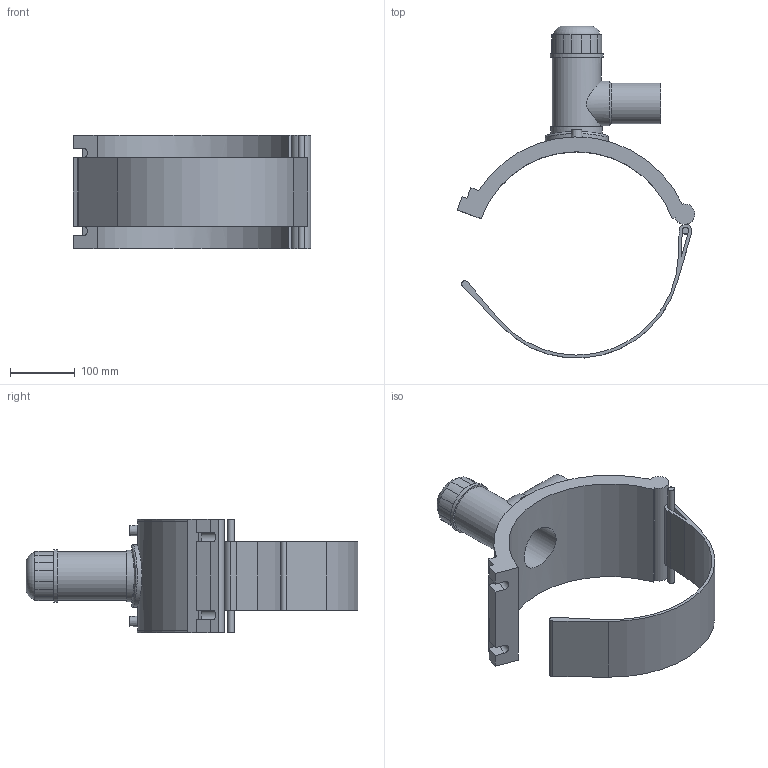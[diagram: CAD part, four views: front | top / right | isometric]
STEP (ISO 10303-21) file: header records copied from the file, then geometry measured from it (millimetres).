
FILE_DESCRIPTION(/* description */ ('PLASSON TAPPING TEE SADDLE 315mm x 63mm'),/* implementation_level */ '2;1');
FILE_NAME(/* name */ 'C:\Dropbox\KIMPROJECTS-Inventor 2019\99-16-3568-Processing\ElectroFusion Fittings\491304\491304315063.stp',/* time_stamp */ '2023-03-23T11:29:15+02:00',/* author */ ('KIM'),/* organization */ (''),/* preprocessor_version */ 'ST-DEVELOPER v17.2',/* originating_system */ 'Autodesk Inventor 2019',/* authorisation */ '');
FILE_SCHEMA (('AUTOMOTIVE_DESIGN { 1 0 10303 214 3 1 1 }'));
Length unit declared in the file: millimetre
Products named in the file (1): 491304315063
Bounding box: 367.95 x 514.32 x 176 mm (x, y, z)
Volume: 2495385.7 mm3; surface area: 427870.7 mm2
Topology: 2 solids, 2 shells, 91 faces, 229 edges, 157 vertices
Faces by surface type: cylinder 43, plane 43, cone 3, bspline 1, torus 1
Full cylindrical faces by diameter (mm): 4 x2, 10 x3, 50.4 x1, 63 x1, 69.3 x1, 69.6 x1, 75.6 x1, 79.6 x1, 81.9 x1, 97.65 x1
Entity records: 3370 total; most frequent: CARTESIAN_POINT 1040, DIRECTION 495, ORIENTED_EDGE 460, EDGE_CURVE 230, AXIS2_PLACEMENT_3D 191, VERTEX_POINT 159, LINE 113, VECTOR 113
